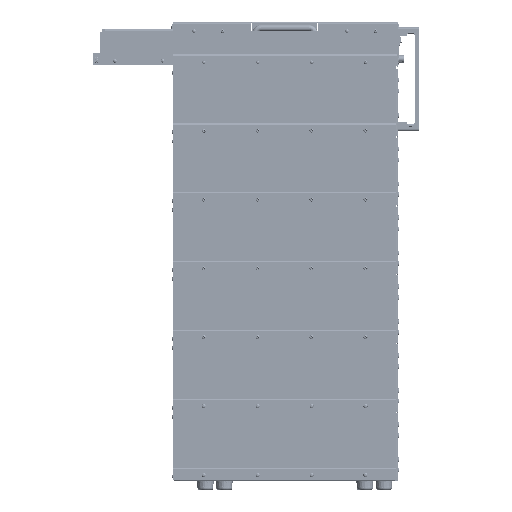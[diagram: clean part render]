
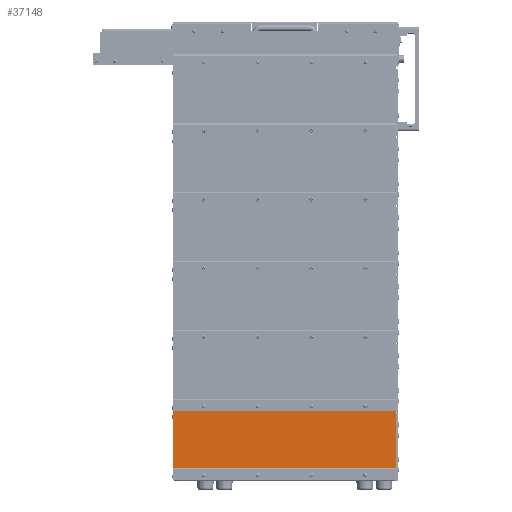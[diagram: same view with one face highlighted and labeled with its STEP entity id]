
A CAD part, left-side view. The second image highlights one B-rep face of the part: STEP entity #37148.
In plain terms, the highlighted planar face has unit normal (-1, 0, 0).
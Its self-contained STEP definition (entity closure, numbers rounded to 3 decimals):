
#37148=ADVANCED_FACE('',(#102727,#102728,#102729,#102730,#102731),#102732,.T.);
#102727=FACE_OUTER_BOUND('',#205877,.T.);
#102728=FACE_BOUND('',#205878,.T.);
#102729=FACE_BOUND('',#205879,.T.);
#102730=FACE_BOUND('',#205880,.T.);
#102731=FACE_BOUND('',#205881,.T.);
#102732=PLANE('',#205882);
#205877=EDGE_LOOP('',(#311171,#311172,#311173,#311174,#311175,#311176,#311177,#311178));
#205878=EDGE_LOOP('',(#311179,#311180));
#205879=EDGE_LOOP('',(#311181,#311182));
#205880=EDGE_LOOP('',(#311183,#311184));
#205881=EDGE_LOOP('',(#311185,#311186));
#205882=AXIS2_PLACEMENT_3D('',#311187,#311188,#311189);
#311171=ORIENTED_EDGE('',*,*,#563242,.F.);
#311172=ORIENTED_EDGE('',*,*,#563250,.T.);
#311173=ORIENTED_EDGE('',*,*,#563261,.F.);
#311174=ORIENTED_EDGE('',*,*,#563237,.F.);
#311175=ORIENTED_EDGE('',*,*,#563285,.T.);
#311176=ORIENTED_EDGE('',*,*,#563303,.F.);
#311177=ORIENTED_EDGE('',*,*,#563304,.F.);
#311178=ORIENTED_EDGE('',*,*,#563244,.F.);
#311179=ORIENTED_EDGE('',*,*,#563220,.T.);
#311180=ORIENTED_EDGE('',*,*,#563287,.T.);
#311181=ORIENTED_EDGE('',*,*,#563215,.T.);
#311182=ORIENTED_EDGE('',*,*,#563289,.T.);
#311183=ORIENTED_EDGE('',*,*,#563210,.T.);
#311184=ORIENTED_EDGE('',*,*,#563291,.T.);
#311185=ORIENTED_EDGE('',*,*,#563205,.T.);
#311186=ORIENTED_EDGE('',*,*,#563293,.T.);
#311187=CARTESIAN_POINT('',(546.234,604.229,-642.702));
#311188=DIRECTION('',(-1.0,0.,0.));
#311189=DIRECTION('',(0.,0.,1.0));
#563205=EDGE_CURVE('',#673205,#673202,#673206,.T.);
#563210=EDGE_CURVE('',#673214,#673211,#673215,.T.);
#563215=EDGE_CURVE('',#673223,#673220,#673224,.T.);
#563220=EDGE_CURVE('',#673232,#673229,#673233,.T.);
#563237=EDGE_CURVE('',#673261,#673257,#673263,.T.);
#563242=EDGE_CURVE('',#673270,#673266,#673272,.T.);
#563244=EDGE_CURVE('',#673266,#673274,#673275,.T.);
#563250=EDGE_CURVE('',#673270,#673282,#673284,.T.);
#563261=EDGE_CURVE('',#673257,#673282,#673297,.T.);
#563285=EDGE_CURVE('',#673261,#673327,#673329,.T.);
#563287=EDGE_CURVE('',#673229,#673232,#673331,.T.);
#563289=EDGE_CURVE('',#673220,#673223,#673333,.T.);
#563291=EDGE_CURVE('',#673211,#673214,#673335,.T.);
#563293=EDGE_CURVE('',#673202,#673205,#673337,.T.);
#563303=EDGE_CURVE('',#673347,#673327,#673348,.T.);
#563304=EDGE_CURVE('',#673274,#673347,#673349,.T.);
#673202=VERTEX_POINT('',#837706);
#673205=VERTEX_POINT('',#837710);
#673206=CIRCLE('',#837711,2.5);
#673211=VERTEX_POINT('',#837717);
#673214=VERTEX_POINT('',#837721);
#673215=CIRCLE('',#837722,2.5);
#673220=VERTEX_POINT('',#837728);
#673223=VERTEX_POINT('',#837732);
#673224=CIRCLE('',#837733,2.5);
#673229=VERTEX_POINT('',#837739);
#673232=VERTEX_POINT('',#837743);
#673233=CIRCLE('',#837744,2.5);
#673257=VERTEX_POINT('',#837773);
#673261=VERTEX_POINT('',#837778);
#673263=CIRCLE('',#837781,1.457);
#673266=VERTEX_POINT('',#837784);
#673270=VERTEX_POINT('',#837789);
#673272=CIRCLE('',#837792,2.538);
#673274=VERTEX_POINT('',#837794);
#673275=CIRCLE('',#837795,2.538);
#673282=VERTEX_POINT('',#837804);
#673284=LINE('',#837807,#837808);
#673297=CIRCLE('',#837824,1.457);
#673327=VERTEX_POINT('',#837863);
#673329=LINE('',#837866,#837867);
#673331=CIRCLE('',#837869,2.5);
#673333=CIRCLE('',#837871,2.5);
#673335=CIRCLE('',#837873,2.5);
#673337=CIRCLE('',#837875,2.5);
#673347=VERTEX_POINT('',#837885);
#673348=LINE('',#837886,#837887);
#673349=LINE('',#837888,#837889);
#837706=CARTESIAN_POINT('',(546.234,974.979,-587.277));
#837710=CARTESIAN_POINT('',(546.234,979.979,-587.277));
#837711=AXIS2_PLACEMENT_3D('',#1051617,#1051618,#1051619);
#837717=CARTESIAN_POINT('',(546.234,870.559,-587.277));
#837721=CARTESIAN_POINT('',(546.234,875.559,-587.277));
#837722=AXIS2_PLACEMENT_3D('',#1051625,#1051626,#1051627);
#837728=CARTESIAN_POINT('',(546.234,766.149,-587.277));
#837732=CARTESIAN_POINT('',(546.234,771.149,-587.277));
#837733=AXIS2_PLACEMENT_3D('',#1051633,#1051634,#1051635);
#837739=CARTESIAN_POINT('',(546.234,661.729,-587.277));
#837743=CARTESIAN_POINT('',(546.234,666.729,-587.277));
#837744=AXIS2_PLACEMENT_3D('',#1051641,#1051642,#1051643);
#837773=CARTESIAN_POINT('',(546.234,1037.053,-579.454));
#837778=CARTESIAN_POINT('',(546.234,1037.479,-580.484));
#837781=AXIS2_PLACEMENT_3D('',#1051669,#1051670,#1051671);
#837784=CARTESIAN_POINT('',(546.234,604.973,-579.771));
#837789=CARTESIAN_POINT('',(546.234,606.767,-579.027));
#837792=AXIS2_PLACEMENT_3D('',#1051677,#1051678,#1051679);
#837794=CARTESIAN_POINT('',(546.234,604.229,-581.565));
#837795=AXIS2_PLACEMENT_3D('',#1051680,#1051681,#1051682);
#837804=CARTESIAN_POINT('',(546.234,1036.023,-579.027));
#837807=CARTESIAN_POINT('',(546.234,604.229,-579.027));
#837808=VECTOR('',#1051689,1.0);
#837824=AXIS2_PLACEMENT_3D('',#1051708,#1051709,#1051710);
#837863=CARTESIAN_POINT('',(546.234,1037.479,-706.377));
#837866=CARTESIAN_POINT('',(546.234,1037.479,-579.027));
#837867=VECTOR('',#1051745,1.0);
#837869=AXIS2_PLACEMENT_3D('',#1051746,#1051747,#1051748);
#837871=AXIS2_PLACEMENT_3D('',#1051749,#1051750,#1051751);
#837873=AXIS2_PLACEMENT_3D('',#1051752,#1051753,#1051754);
#837875=AXIS2_PLACEMENT_3D('',#1051755,#1051756,#1051757);
#837885=CARTESIAN_POINT('',(546.234,604.229,-706.377));
#837886=CARTESIAN_POINT('',(546.234,604.229,-706.377));
#837887=VECTOR('',#1051770,1.0);
#837888=CARTESIAN_POINT('',(546.234,604.229,-579.027));
#837889=VECTOR('',#1051771,1.0);
#1051617=CARTESIAN_POINT('',(546.234,977.479,-587.277));
#1051618=DIRECTION('',(1.0,0.,0.));
#1051619=DIRECTION('',(0.,-1.0,0.));
#1051625=CARTESIAN_POINT('',(546.234,873.059,-587.277));
#1051626=DIRECTION('',(1.0,0.,0.));
#1051627=DIRECTION('',(0.,-1.0,0.));
#1051633=CARTESIAN_POINT('',(546.234,768.649,-587.277));
#1051634=DIRECTION('',(1.0,0.,0.));
#1051635=DIRECTION('',(0.,-1.0,0.));
#1051641=CARTESIAN_POINT('',(546.234,664.229,-587.277));
#1051642=DIRECTION('',(1.0,0.,0.));
#1051643=DIRECTION('',(0.,-1.0,0.));
#1051669=CARTESIAN_POINT('',(546.234,1036.023,-580.484));
#1051670=DIRECTION('',(1.0,0.,0.));
#1051671=DIRECTION('',(0.,0.707,0.707));
#1051677=CARTESIAN_POINT('',(546.234,606.767,-581.565));
#1051678=DIRECTION('',(1.0,0.,0.));
#1051679=DIRECTION('',(0.,-0.707,0.707));
#1051680=CARTESIAN_POINT('',(546.234,606.767,-581.565));
#1051681=DIRECTION('',(1.0,0.,0.));
#1051682=DIRECTION('',(0.,-0.707,0.707));
#1051689=DIRECTION('',(0.0,1.0,0.0));
#1051708=CARTESIAN_POINT('',(546.234,1036.023,-580.484));
#1051709=DIRECTION('',(1.0,0.,0.));
#1051710=DIRECTION('',(0.,0.707,0.707));
#1051745=DIRECTION('',(0.0,0.0,-1.0));
#1051746=CARTESIAN_POINT('',(546.234,664.229,-587.277));
#1051747=DIRECTION('',(1.0,0.,0.));
#1051748=DIRECTION('',(0.,-1.0,0.));
#1051749=CARTESIAN_POINT('',(546.234,768.649,-587.277));
#1051750=DIRECTION('',(1.0,0.,0.));
#1051751=DIRECTION('',(0.,-1.0,0.));
#1051752=CARTESIAN_POINT('',(546.234,873.059,-587.277));
#1051753=DIRECTION('',(1.0,0.,0.));
#1051754=DIRECTION('',(0.,-1.0,0.));
#1051755=CARTESIAN_POINT('',(546.234,977.479,-587.277));
#1051756=DIRECTION('',(1.0,0.,0.));
#1051757=DIRECTION('',(0.,-1.0,0.));
#1051770=DIRECTION('',(0.0,1.0,0.0));
#1051771=DIRECTION('',(0.0,0.0,-1.0));
